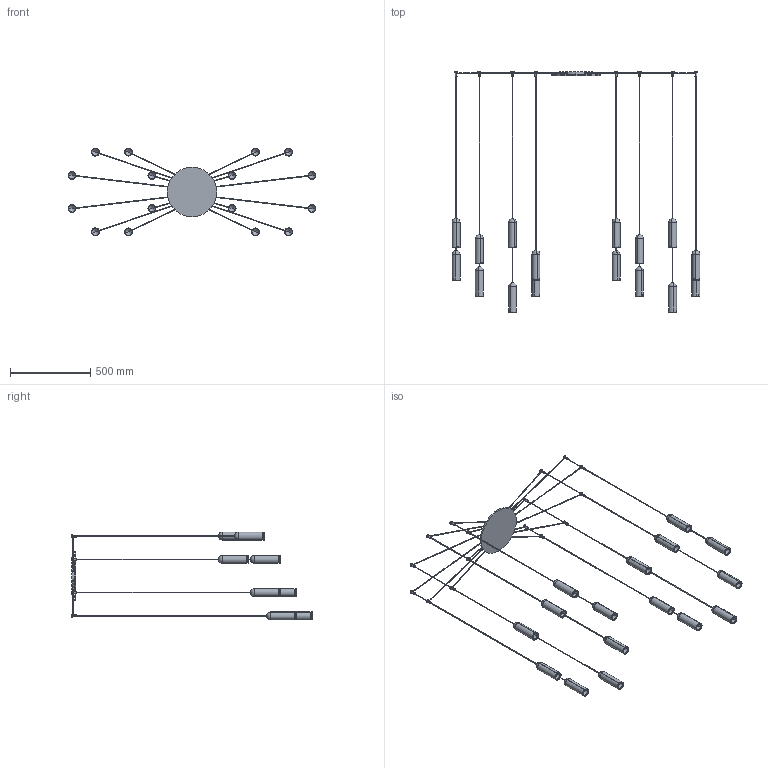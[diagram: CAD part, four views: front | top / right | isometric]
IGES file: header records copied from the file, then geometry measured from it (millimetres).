
Start section: SolidWorks IGES file using analytic representation for surfaces
Global section: file name: Y:\eforma\TECNICO\SOLIDWORKS\E-FORMA\09-LAMPADE\NANUM\08 modelli 3D web\NANB1-00-NANUM 16 B ROSONE CENTRALE.IGS; native system: SolidWorks 2022; preprocessor: SolidWorks 2022; author: eforma.tech; date: 240801.144408; units: millimetre
Bounding box: 1548.81 x 1500 x 548.88 mm (x, y, z)
Volume: 2714139.7 mm3; surface area: 1475697.2 mm2
Topology: 49 solids, 49 shells, 583 faces, 1148 edges, 664 vertices
Faces by surface type: revolution 452, plane 131
